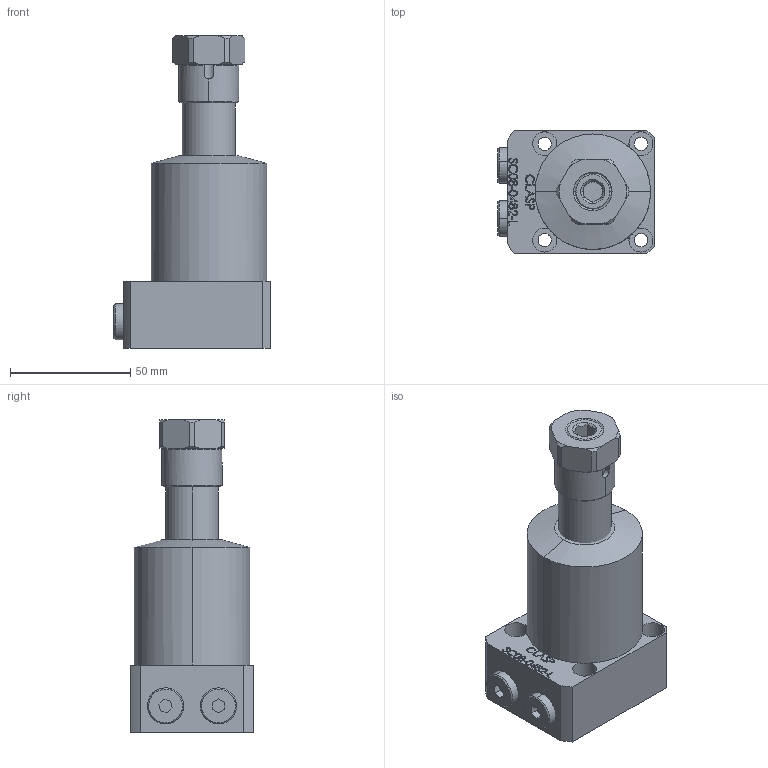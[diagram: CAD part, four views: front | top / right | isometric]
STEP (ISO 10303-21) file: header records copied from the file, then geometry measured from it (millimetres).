
FILE_DESCRIPTION (( 'STEP AP203' ), '1' );
FILE_NAME ('SC08-0482-L.STEP', '2022-07-08T17:17:54', ( '' ), ( '' ), 'SwSTEP 2.0', 'SolidWorks 2017', '' );
FILE_SCHEMA (( 'CONFIG_CONTROL_DESIGN' ));
Length unit declared in the file: millimetre
Products named in the file (6): SC08-0482-L; SC-08-0482-L BODY; SC-08-0482-L-Piston; SC-08-0482-L-05 plug; SC-08-0482-L-04 sleeve; SC-08-0482-L-03-nut
Assembly tree (6 placements, depth 2):
  SC08-0482-L
    SC-08-0482-L BODY
    SC-08-0482-L-Piston
    SC-08-0482-L-05 plug  x2
    SC-08-0482-L-04 sleeve
    SC-08-0482-L-03-nut
Bounding box: 65 x 51 x 130 mm (x, y, z)
Volume: 206422.4 mm3; surface area: 36140.3 mm2
Topology: 6 solids, 6 shells, 381 faces, 951 edges, 621 vertices
Faces by surface type: plane 165, bspline 112, cylinder 62, cone 41, torus 1
Entity records: 18083 total; most frequent: CARTESIAN_POINT 9323, ORIENTED_EDGE 1838, DIRECTION 1355, EDGE_CURVE 919, VERTEX_POINT 601, VECTOR 469, LINE 469, AXIS2_PLACEMENT_3D 443
